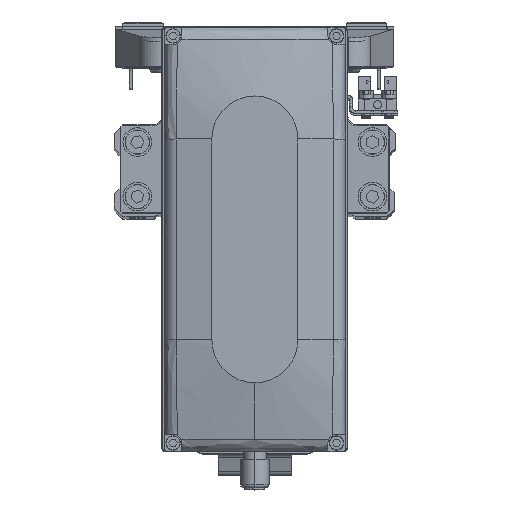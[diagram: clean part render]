
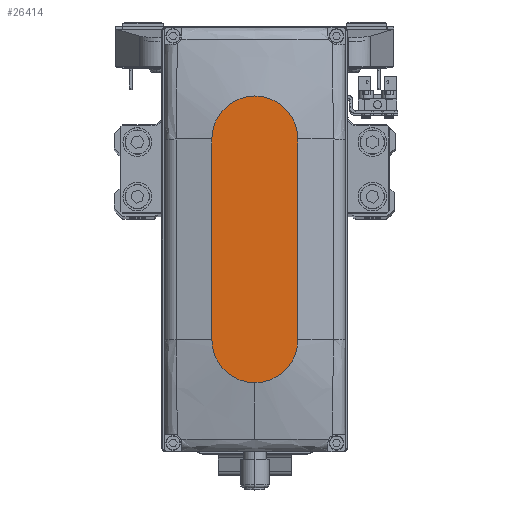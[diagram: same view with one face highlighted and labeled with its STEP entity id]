
A CAD part, top view. The second image highlights one B-rep face of the part: STEP entity #26414.
In plain terms, the highlighted planar face has unit normal (0, 0, 1).
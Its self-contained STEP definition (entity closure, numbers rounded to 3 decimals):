
#1209 = CIRCLE ( 'NONE', #26631, 15. ) ;
#1500 = ORIENTED_EDGE ( 'NONE', *, *, #7286, .T. ) ;
#1834 = VERTEX_POINT ( 'NONE', #10120 ) ;
#2187 = AXIS2_PLACEMENT_3D ( 'NONE', #9325, #23180, #37028 ) ;
#3190 = CARTESIAN_POINT ( 'NONE',  ( -35., -15., 35. ) ) ;
#4024 = VERTEX_POINT ( 'NONE', #3190 ) ;
#5788 = CIRCLE ( 'NONE', #31170, 15. ) ;
#6389 = DIRECTION ( 'NONE',  ( 1., 0., 0. ) ) ;
#6789 = LINE ( 'NONE', #20650, #43308 ) ;
#7286 = EDGE_CURVE ( 'NONE', #42955, #1834, #44252, .T. ) ;
#8156 = DIRECTION ( 'NONE',  ( 1., 0., 0. ) ) ;
#9325 = CARTESIAN_POINT ( 'NONE',  ( 0., 0., 35. ) ) ;
#10120 = CARTESIAN_POINT ( 'NONE',  ( -35., 15., 35. ) ) ;
#10346 = EDGE_CURVE ( 'NONE', #4024, #12837, #6789, .T. ) ;
#11633 = EDGE_CURVE ( 'NONE', #1834, #4024, #1209, .T. ) ;
#12837 = VERTEX_POINT ( 'NONE', #36840 ) ;
#13156 = CARTESIAN_POINT ( 'NONE',  ( -35., 15., 35. ) ) ;
#13186 = DIRECTION ( 'NONE',  ( 1., 0., 0. ) ) ;
#15241 = VERTEX_POINT ( 'NONE', #20140 ) ;
#17145 = ORIENTED_EDGE ( 'NONE', *, *, #27778, .T. ) ;
#17535 = CIRCLE ( 'NONE', #42916, 15. ) ;
#18764 = EDGE_LOOP ( 'NONE', ( #1500, #29344, #42664, #43271, #17145 ) ) ;
#20140 = CARTESIAN_POINT ( 'NONE',  ( 50., 0., 35. ) ) ;
#20650 = CARTESIAN_POINT ( 'NONE',  ( -35., -15., 35. ) ) ;
#23180 = DIRECTION ( 'NONE',  ( 0., 0., 1. ) ) ;
#23661 = CARTESIAN_POINT ( 'NONE',  ( -35., 0., 35. ) ) ;
#23919 = EDGE_CURVE ( 'NONE', #12837, #15241, #5788, .T. ) ;
#25410 = CARTESIAN_POINT ( 'NONE',  ( 35., 0., 35. ) ) ;
#26414 = ADVANCED_FACE ( 'NONE', ( #26586 ), #40427, .T. ) ;
#26586 = FACE_OUTER_BOUND ( 'NONE', #18764, .T. ) ;
#26631 = AXIS2_PLACEMENT_3D ( 'NONE', #23661, #37509, #6389 ) ;
#27030 = DIRECTION ( 'NONE',  ( -1., 0., 0. ) ) ;
#27778 = EDGE_CURVE ( 'NONE', #15241, #42955, #17535, .T. ) ;
#29344 = ORIENTED_EDGE ( 'NONE', *, *, #11633, .T. ) ;
#30447 = CARTESIAN_POINT ( 'NONE',  ( 35., 0., 35. ) ) ;
#31170 = AXIS2_PLACEMENT_3D ( 'NONE', #25410, #39251, #8156 ) ;
#34494 = DIRECTION ( 'NONE',  ( 1., 0., 0. ) ) ;
#35567 = VECTOR ( 'NONE', #27030, 1000. ) ;
#36137 = CARTESIAN_POINT ( 'NONE',  ( 35., 15., 35. ) ) ;
#36840 = CARTESIAN_POINT ( 'NONE',  ( 35., -15., 35. ) ) ;
#37028 = DIRECTION ( 'NONE',  ( 1., 0., 0. ) ) ;
#37509 = DIRECTION ( 'NONE',  ( 0., 0., 1. ) ) ;
#39251 = DIRECTION ( 'NONE',  ( 0., 0., 1. ) ) ;
#40427 = PLANE ( 'NONE',  #2187 ) ;
#42664 = ORIENTED_EDGE ( 'NONE', *, *, #10346, .T. ) ;
#42916 = AXIS2_PLACEMENT_3D ( 'NONE', #30447, #44284, #13186 ) ;
#42955 = VERTEX_POINT ( 'NONE', #36137 ) ;
#43271 = ORIENTED_EDGE ( 'NONE', *, *, #23919, .T. ) ;
#43308 = VECTOR ( 'NONE', #34494, 1000. ) ;
#44252 = LINE ( 'NONE', #13156, #35567 ) ;
#44284 = DIRECTION ( 'NONE',  ( 0., 0., 1. ) ) ;
